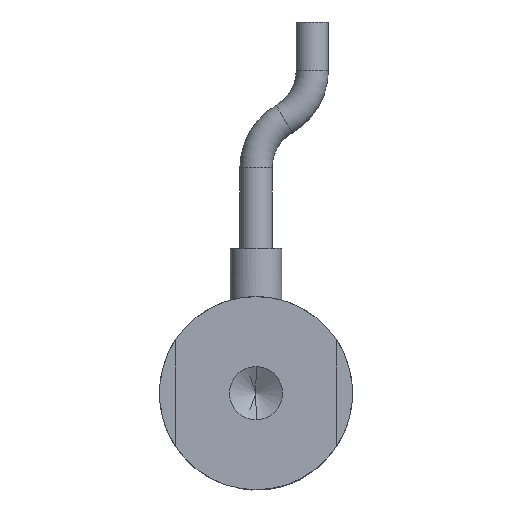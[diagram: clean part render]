
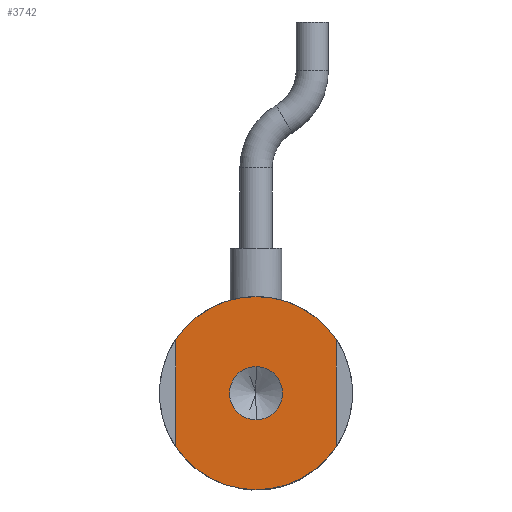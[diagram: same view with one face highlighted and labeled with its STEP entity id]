
A CAD part, front view. The second image highlights one B-rep face of the part: STEP entity #3742.
In plain terms, the highlighted planar face has unit normal (0, -1, 0).
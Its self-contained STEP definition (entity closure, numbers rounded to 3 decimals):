
#1184 = CIRCLE ( 'NONE', #17021, 6. ) ;
#1454 = ORIENTED_EDGE ( 'NONE', *, *, #37280, .F. ) ;
#2296 = DIRECTION ( 'NONE',  ( 0., 0., 1. ) ) ;
#3355 = DIRECTION ( 'NONE',  ( 0., 1., 0. ) ) ;
#3411 = DIRECTION ( 'NONE',  ( 0., 1., 0. ) ) ;
#3742 = ADVANCED_FACE ( 'NONE', ( #28965, #29271 ), #9318, .F. ) ;
#4110 = VERTEX_POINT ( 'NONE', #19136 ) ;
#4188 = EDGE_CURVE ( 'NONE', #26028, #14079, #29815, .T. ) ;
#4233 = EDGE_CURVE ( 'NONE', #20373, #8081, #27884, .T. ) ;
#4357 = EDGE_CURVE ( 'NONE', #18537, #16340, #30278, .T. ) ;
#5592 = AXIS2_PLACEMENT_3D ( 'NONE', #40502, #21191, #2296 ) ;
#6214 = CARTESIAN_POINT ( 'NONE',  ( 0., 0., 1.65 ) ) ;
#6412 = CARTESIAN_POINT ( 'NONE',  ( 0., 0., 0. ) ) ;
#8081 = VERTEX_POINT ( 'NONE', #11107 ) ;
#8789 = ORIENTED_EDGE ( 'NONE', *, *, #33713, .F. ) ;
#9318 = PLANE ( 'NONE',  #22647 ) ;
#9413 = DIRECTION ( 'NONE',  ( 0., 1., 0. ) ) ;
#9617 = ORIENTED_EDGE ( 'NONE', *, *, #4233, .F. ) ;
#9685 = CARTESIAN_POINT ( 'NONE',  ( -5., 0., 0. ) ) ;
#9731 = DIRECTION ( 'NONE',  ( 0., 0., 1. ) ) ;
#9845 = CARTESIAN_POINT ( 'NONE',  ( 0., 0., 0. ) ) ;
#9937 = DIRECTION ( 'NONE',  ( 0., 0., 1. ) ) ;
#11107 = CARTESIAN_POINT ( 'NONE',  ( -5., 0., 3.317 ) ) ;
#12945 = DIRECTION ( 'NONE',  ( 0., 0., 1. ) ) ;
#14079 = VERTEX_POINT ( 'NONE', #6214 ) ;
#14562 = CARTESIAN_POINT ( 'NONE',  ( 0., 0., 0. ) ) ;
#14760 = DIRECTION ( 'NONE',  ( 0., -1., 0. ) ) ;
#14850 = DIRECTION ( 'NONE',  ( 0., 0., -1. ) ) ;
#16340 = VERTEX_POINT ( 'NONE', #22602 ) ;
#17021 = AXIS2_PLACEMENT_3D ( 'NONE', #22319, #3411, #25506 ) ;
#17458 = CARTESIAN_POINT ( 'NONE',  ( 0., 0., 0. ) ) ;
#17587 = CARTESIAN_POINT ( 'NONE',  ( 0., 0., -1.65 ) ) ;
#18537 = VERTEX_POINT ( 'NONE', #35647 ) ;
#19090 = CIRCLE ( 'NONE', #5592, 6. ) ;
#19136 = CARTESIAN_POINT ( 'NONE',  ( 0., 0., -6. ) ) ;
#19597 = CIRCLE ( 'NONE', #26182, 6. ) ;
#20079 = AXIS2_PLACEMENT_3D ( 'NONE', #9845, #32278, #12945 ) ;
#20373 = VERTEX_POINT ( 'NONE', #27763 ) ;
#20388 = EDGE_LOOP ( 'NONE', ( #9617, #1454, #23056, #27892, #32018, #22223 ) ) ;
#20692 = DIRECTION ( 'NONE',  ( 0., 0., -1. ) ) ;
#21191 = DIRECTION ( 'NONE',  ( 0., 1., 0. ) ) ;
#22223 = ORIENTED_EDGE ( 'NONE', *, *, #35118, .F. ) ;
#22255 = CARTESIAN_POINT ( 'NONE',  ( 0., 0., 0. ) ) ;
#22319 = CARTESIAN_POINT ( 'NONE',  ( 0., 0., 0. ) ) ;
#22602 = CARTESIAN_POINT ( 'NONE',  ( 5., 0., -3.317 ) ) ;
#22647 = AXIS2_PLACEMENT_3D ( 'NONE', #6412, #9413, #9731 ) ;
#23056 = ORIENTED_EDGE ( 'NONE', *, *, #40389, .F. ) ;
#23215 = AXIS2_PLACEMENT_3D ( 'NONE', #14562, #14760, #14850 ) ;
#25448 = DIRECTION ( 'NONE',  ( 0., 0., 1. ) ) ;
#25506 = DIRECTION ( 'NONE',  ( 0., 0., 1. ) ) ;
#25832 = EDGE_CURVE ( 'NONE', #35031, #18537, #26669, .T. ) ;
#26028 = VERTEX_POINT ( 'NONE', #17587 ) ;
#26182 = AXIS2_PLACEMENT_3D ( 'NONE', #22255, #3355, #25448 ) ;
#26669 = CIRCLE ( 'NONE', #20079, 6. ) ;
#27763 = CARTESIAN_POINT ( 'NONE',  ( -5., 0., -3.317 ) ) ;
#27884 = LINE ( 'NONE', #9685, #30348 ) ;
#27892 = ORIENTED_EDGE ( 'NONE', *, *, #4357, .F. ) ;
#28155 = CARTESIAN_POINT ( 'NONE',  ( 5., 0., 0. ) ) ;
#28184 = CARTESIAN_POINT ( 'NONE',  ( 0., 0., 6. ) ) ;
#28186 = DIRECTION ( 'NONE',  ( 0., 0., -1. ) ) ;
#28965 = FACE_BOUND ( 'NONE', #39578, .T. ) ;
#29271 = FACE_OUTER_BOUND ( 'NONE', #20388, .T. ) ;
#29815 = CIRCLE ( 'NONE', #23215, 1.65 ) ;
#29950 = ORIENTED_EDGE ( 'NONE', *, *, #4188, .F. ) ;
#30278 = LINE ( 'NONE', #28155, #31367 ) ;
#30348 = VECTOR ( 'NONE', #9937, 1000. ) ;
#31367 = VECTOR ( 'NONE', #28186, 1000. ) ;
#31428 = AXIS2_PLACEMENT_3D ( 'NONE', #17458, #40032, #20692 ) ;
#32018 = ORIENTED_EDGE ( 'NONE', *, *, #25832, .F. ) ;
#32278 = DIRECTION ( 'NONE',  ( 0., 1., 0. ) ) ;
#33713 = EDGE_CURVE ( 'NONE', #14079, #26028, #39195, .T. ) ;
#35031 = VERTEX_POINT ( 'NONE', #28184 ) ;
#35118 = EDGE_CURVE ( 'NONE', #8081, #35031, #19597, .T. ) ;
#35647 = CARTESIAN_POINT ( 'NONE',  ( 5., 0., 3.317 ) ) ;
#37280 = EDGE_CURVE ( 'NONE', #4110, #20373, #1184, .T. ) ;
#39195 = CIRCLE ( 'NONE', #31428, 1.65 ) ;
#39578 = EDGE_LOOP ( 'NONE', ( #29950, #8789 ) ) ;
#40032 = DIRECTION ( 'NONE',  ( 0., -1., 0. ) ) ;
#40389 = EDGE_CURVE ( 'NONE', #16340, #4110, #19090, .T. ) ;
#40502 = CARTESIAN_POINT ( 'NONE',  ( 0., 0., 0. ) ) ;
